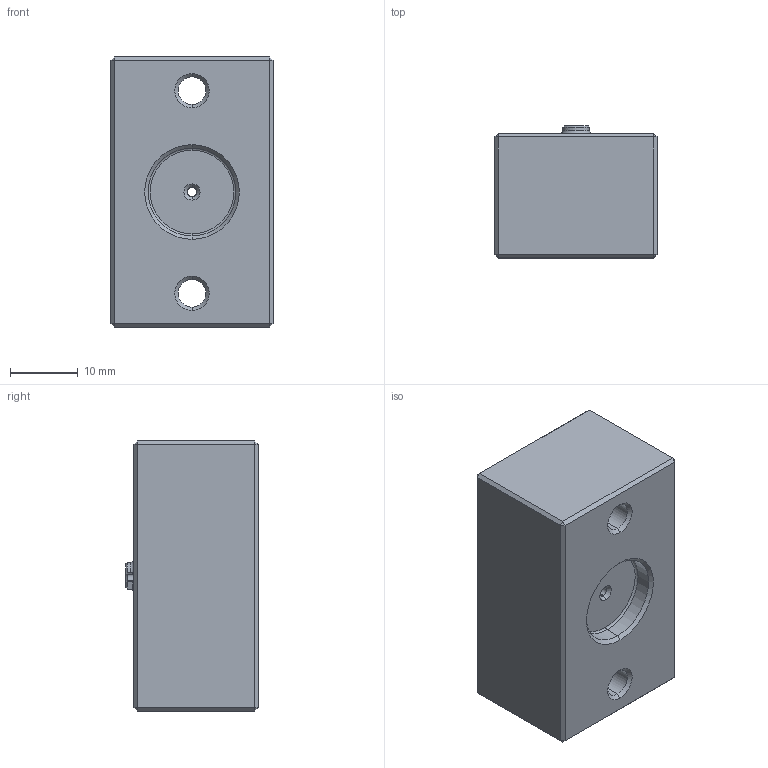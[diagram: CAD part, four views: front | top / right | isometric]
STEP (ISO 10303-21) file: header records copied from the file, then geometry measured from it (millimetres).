
FILE_DESCRIPTION (( 'STEP AP214' ), '1' );
FILE_NAME ('TRL-0050-A.STEP', '2021-06-28T15:26:34', ( '' ), ( '' ), 'SwSTEP 2.0', 'SolidWorks 2016', '' );
FILE_SCHEMA (( 'AUTOMOTIVE_DESIGN' ));
Length unit declared in the file: millimetre
Products named in the file (1): TRL-0050-A
Bounding box: 24 x 19.6 x 40 mm (x, y, z)
Volume: 16712.6 mm3; surface area: 4767.4 mm2
Topology: 1 solids, 1 shells, 68 faces, 144 edges, 79 vertices
Faces by surface type: plane 36, cone 16, cylinder 11, torus 3, bspline 2
Entity records: 2024 total; most frequent: CARTESIAN_POINT 537, DIRECTION 309, ORIENTED_EDGE 288, EDGE_CURVE 144, AXIS2_PLACEMENT_3D 110, VECTOR 89, LINE 89, VERTEX_POINT 79
